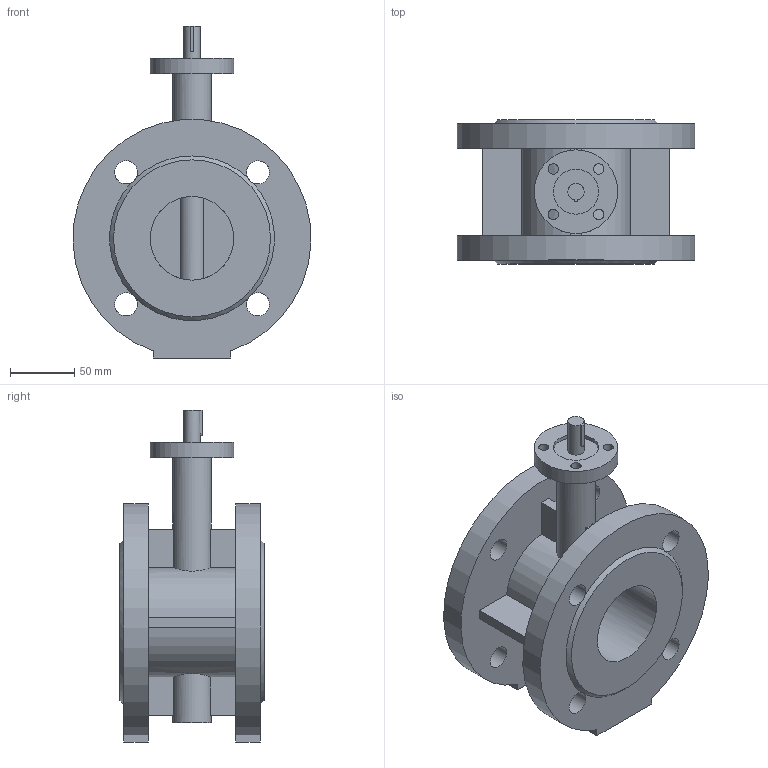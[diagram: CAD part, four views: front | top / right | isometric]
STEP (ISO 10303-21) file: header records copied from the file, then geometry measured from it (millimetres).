
FILE_DESCRIPTION(('STEP AP203'), '1');
FILE_NAME('Çàòâîð 021F.Y DN65 PN10_16 ïîä ÝÏ', '', ('UNSPECIFIED'), ('UNSPECIFIED'), 'ASCON STEP Converter 1.6', 'ASCON Math Kernel', '');
FILE_SCHEMA(('CONFIG_CONTROL_DESIGN'));
Length unit declared in the file: millimetre
Bounding box: 184.79 x 112 x 258 mm (x, y, z)
Volume: 1292376.2 mm3; surface area: 195513.9 mm2
Topology: 1 solids, 1 shells, 72 faces, 207 edges, 138 vertices
Faces by surface type: plane 42, cylinder 28, cone 2
Full cylindrical faces by diameter (mm): 8 x4, 12.6 x1, 18 x8, 30 x2, 35 x1, 65 x3
Entity records: 4043 total; most frequent: CARTESIAN_POINT 1530, DIRECTION 391, ORIENTED_EDGE 372, EDGE_CURVE 186, AXIS2_PLACEMENT_3D 151, VERTEX_POINT 138, EDGE_LOOP 118, FACE_BOUND 91
